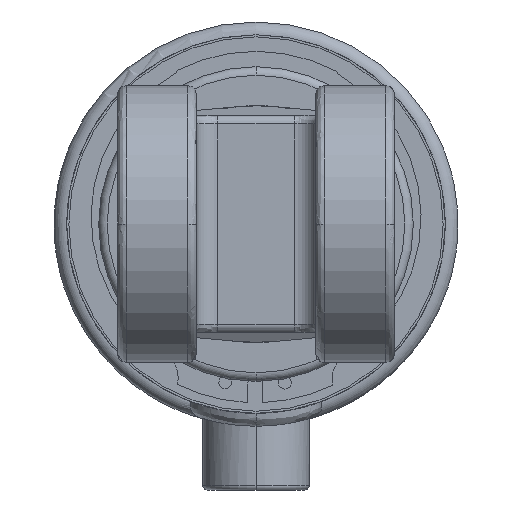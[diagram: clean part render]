
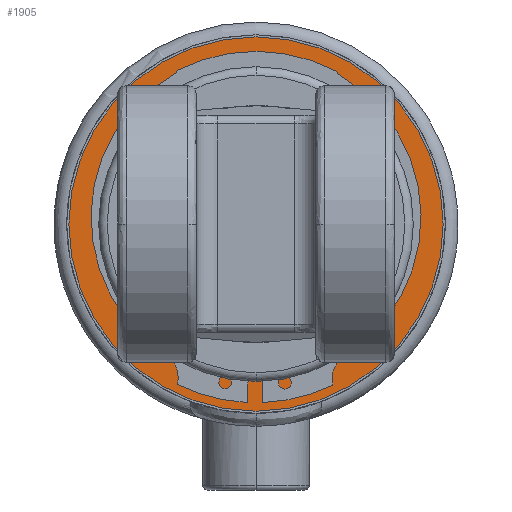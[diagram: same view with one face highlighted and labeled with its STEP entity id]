
A CAD part, left-side view. The second image highlights one B-rep face of the part: STEP entity #1905.
In plain terms, the highlighted planar face has unit normal (-1, 0, 0).
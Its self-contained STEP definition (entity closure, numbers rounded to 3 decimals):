
#203 = DIRECTION ( 'NONE',  ( -1., 0., 0. ) ) ;
#356 = ORIENTED_EDGE ( 'NONE', *, *, #4823, .T. ) ;
#1105 = DIRECTION ( 'NONE',  ( -1., 0., 0. ) ) ;
#1203 = CIRCLE ( 'NONE', #9517, 36.95 ) ;
#1708 = EDGE_CURVE ( 'NONE', #3980, #3433, #4979, .T. ) ;
#1817 = CARTESIAN_POINT ( 'NONE',  ( -468.005, 0., 0. ) ) ;
#1905 = ADVANCED_FACE ( 'NONE', ( #11384, #8659 ), #7287, .T. ) ;
#2482 = DIRECTION ( 'NONE',  ( -1., 0., 0. ) ) ;
#2749 = DIRECTION ( 'NONE',  ( 0., 0., 1. ) ) ;
#3199 = CARTESIAN_POINT ( 'NONE',  ( -468.005, 0., 0. ) ) ;
#3289 = ORIENTED_EDGE ( 'NONE', *, *, #11233, .F. ) ;
#3433 = VERTEX_POINT ( 'NONE', #6892 ) ;
#3980 = VERTEX_POINT ( 'NONE', #7755 ) ;
#4012 = ORIENTED_EDGE ( 'NONE', *, *, #1708, .F. ) ;
#4074 = EDGE_CURVE ( 'NONE', #6616, #6353, #11111, .T. ) ;
#4115 = DIRECTION ( 'NONE',  ( 0., 0., 1. ) ) ;
#4753 = EDGE_LOOP ( 'NONE', ( #356, #9832 ) ) ;
#4823 = EDGE_CURVE ( 'NONE', #6353, #6616, #9815, .T. ) ;
#4979 = CIRCLE ( 'NONE', #7594, 36.95 ) ;
#5585 = EDGE_LOOP ( 'NONE', ( #4012, #3289 ) ) ;
#5672 = CARTESIAN_POINT ( 'NONE',  ( -468.005, 0., 0. ) ) ;
#6353 = VERTEX_POINT ( 'NONE', #10751 ) ;
#6591 = DIRECTION ( 'NONE',  ( 0., 0., 1. ) ) ;
#6616 = VERTEX_POINT ( 'NONE', #6623 ) ;
#6623 = CARTESIAN_POINT ( 'NONE',  ( -468.005, 0., -43.95 ) ) ;
#6892 = CARTESIAN_POINT ( 'NONE',  ( -468.005, 0., -36.95 ) ) ;
#7287 = PLANE ( 'NONE',  #8577 ) ;
#7468 = DIRECTION ( 'NONE',  ( 0., 0., 1. ) ) ;
#7594 = AXIS2_PLACEMENT_3D ( 'NONE', #1817, #8179, #2749 ) ;
#7755 = CARTESIAN_POINT ( 'NONE',  ( -468.005, 0., 36.95 ) ) ;
#7920 = CARTESIAN_POINT ( 'NONE',  ( -468.005, 0., 0. ) ) ;
#8179 = DIRECTION ( 'NONE',  ( -1., 0., 0. ) ) ;
#8577 = AXIS2_PLACEMENT_3D ( 'NONE', #10181, #1105, #7468 ) ;
#8659 = FACE_BOUND ( 'NONE', #5585, .T. ) ;
#8843 = DIRECTION ( 'NONE',  ( 0., 0., 1. ) ) ;
#9517 = AXIS2_PLACEMENT_3D ( 'NONE', #3199, #9548, #4115 ) ;
#9548 = DIRECTION ( 'NONE',  ( -1., 0., 0. ) ) ;
#9815 = CIRCLE ( 'NONE', #11395, 43.95 ) ;
#9832 = ORIENTED_EDGE ( 'NONE', *, *, #4074, .T. ) ;
#10181 = CARTESIAN_POINT ( 'NONE',  ( -468.005, 0., -43.95 ) ) ;
#10625 = AXIS2_PLACEMENT_3D ( 'NONE', #7920, #2482, #8843 ) ;
#10751 = CARTESIAN_POINT ( 'NONE',  ( -468.005, 0., 43.95 ) ) ;
#11111 = CIRCLE ( 'NONE', #10625, 43.95 ) ;
#11233 = EDGE_CURVE ( 'NONE', #3433, #3980, #1203, .T. ) ;
#11384 = FACE_OUTER_BOUND ( 'NONE', #4753, .T. ) ;
#11395 = AXIS2_PLACEMENT_3D ( 'NONE', #5672, #203, #6591 ) ;
